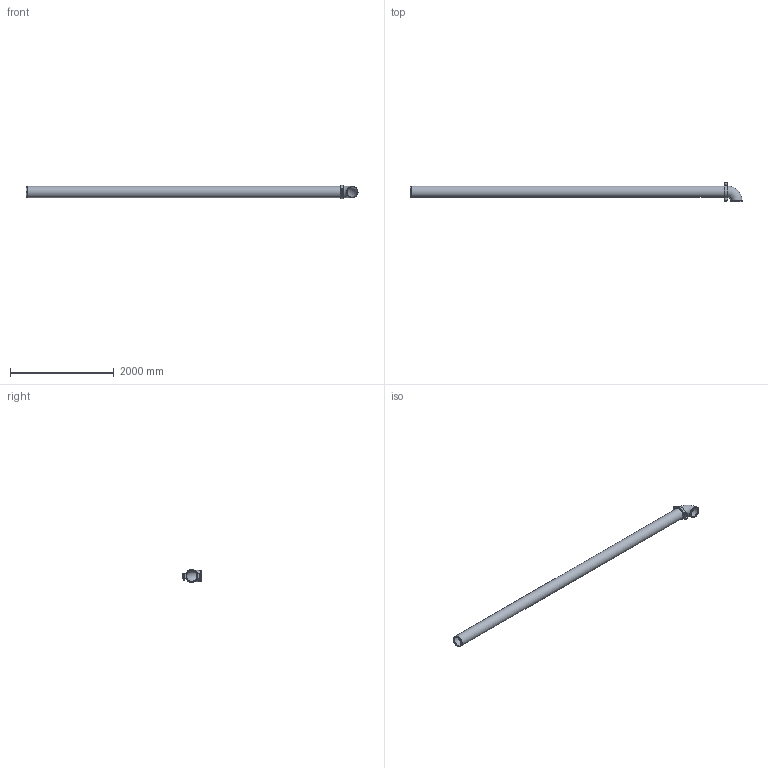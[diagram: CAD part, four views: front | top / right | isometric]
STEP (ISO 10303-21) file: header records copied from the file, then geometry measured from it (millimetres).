
FILE_DESCRIPTION(/* description */ ('VIC LONG RUN FITTING No R20 (OGS)','CAx-IF Rec.Pracs.---Representation and Presentation of Product Manufacturing Information (PMI)---4.0---2014-10-13'),/* implementation_level */ '2;1');
FILE_NAME(/* name */ 'C:\Users\Vjadhav\AppData\Roaming\Autodesk\ApplicationPlugins\Back Up\Victaulic_IPS_Long Run Fittings_No R20 (OGS)\Victaulic_IPS_Long Run Fittings_No R20 (OGS)_8 (200).stp',/* time_stamp */ '2020-10-06T19:46:03+05:00',/* author */ ('Vjadhav'),/* organization */ ('Victaulic'),/* preprocessor_version */ 'ST-DEVELOPER v17.2',/* originating_system */ 'Autodesk Inventor 2019',/* authorisation */ '');
FILE_SCHEMA (('AP242_MANAGED_MODEL_BASED_3D_ENGINEERING_MIM_LF { 1 0 10303 442 1 1 4 }'));
Length unit declared in the file: inch
Products named in the file (4): R20-08.0; 010-08.0; 177N-08.0; Pipe_R10-08.0
Assembly tree (3 placements, depth 2):
  R20-08.0
    010-08.0
    177N-08.0
    Pipe_R10-08.0
Bounding box: 6412.04 x 381.23 x 253.04 mm (x, y, z)
Volume: 36246752.2 mm3; surface area: 8740364.8 mm2
Topology: 3 solids, 3 shells, 117 faces, 313 edges, 210 vertices
Faces by surface type: plane 68, cylinder 37, torus 6, cone 4, sphere 2
Full cylindrical faces by diameter (mm): 22.225 x2, 42.85 x2, 202.717 x3, 206.375 x1, 214.401 x4, 219.075 x7
Entity records: 4336 total; most frequent: CARTESIAN_POINT 983, DIRECTION 673, ORIENTED_EDGE 634, EDGE_CURVE 317, AXIS2_PLACEMENT_3D 252, VERTEX_POINT 210, LINE 169, VECTOR 169
